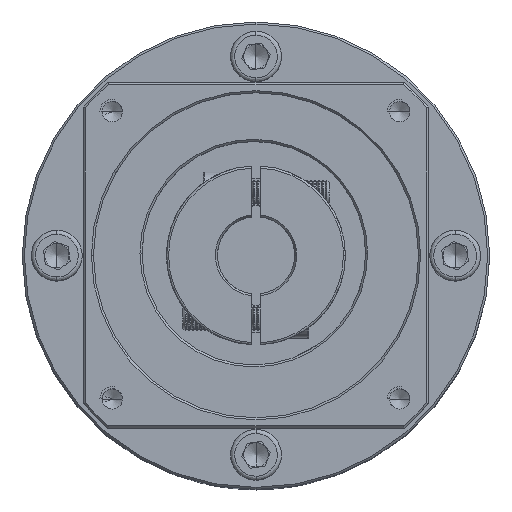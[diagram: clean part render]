
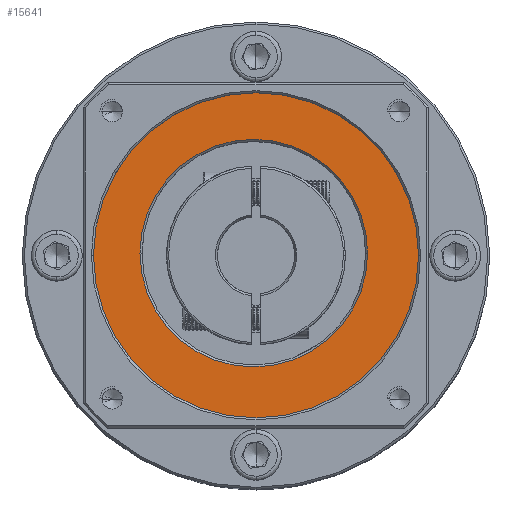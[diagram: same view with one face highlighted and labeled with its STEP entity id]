
A CAD part, top view. The second image highlights one B-rep face of the part: STEP entity #15641.
In plain terms, the highlighted planar face has unit normal (0, 0, 1).
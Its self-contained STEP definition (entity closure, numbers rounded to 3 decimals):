
#864 = CARTESIAN_POINT ( 'NONE',  ( 92.103, -33.587, 37.592 ) ) ;
#5647 = VERTEX_POINT ( 'NONE', #35612 ) ;
#9910 = ORIENTED_EDGE ( 'NONE', *, *, #20414, .T. ) ;
#11227 = DIRECTION ( 'NONE',  ( 0., 0., 1. ) ) ;
#11442 = DIRECTION ( 'NONE',  ( 1., 0., 0. ) ) ;
#15641 = ADVANCED_FACE ( 'NONE', ( #31003, #77204 ), #37721, .T. ) ;
#19317 = ORIENTED_EDGE ( 'NONE', *, *, #100514, .T. ) ;
#20223 = EDGE_CURVE ( 'NONE', #20271, #81738, #22299, .T. ) ;
#20271 = VERTEX_POINT ( 'NONE', #23648 ) ;
#20414 = EDGE_CURVE ( 'NONE', #88370, #5647, #20835, .T. ) ;
#20835 = CIRCLE ( 'NONE', #80206, 40. ) ;
#22299 = CIRCLE ( 'NONE', #72463, 28. ) ;
#22908 = CARTESIAN_POINT ( 'NONE',  ( 52.103, -33.587, 37.592 ) ) ;
#23648 = CARTESIAN_POINT ( 'NONE',  ( 119.561, -33.053, 37.592 ) ) ;
#24091 = DIRECTION ( 'NONE',  ( 0., 0., 1. ) ) ;
#24448 = CARTESIAN_POINT ( 'NONE',  ( 91.561, -33.053, 37.592 ) ) ;
#31003 = FACE_OUTER_BOUND ( 'NONE', #108528, .T. ) ;
#33337 = DIRECTION ( 'NONE',  ( 0., 0., -1. ) ) ;
#33894 = AXIS2_PLACEMENT_3D ( 'NONE', #77257, #48705, #11442 ) ;
#35612 = CARTESIAN_POINT ( 'NONE',  ( 132.103, -33.587, 37.592 ) ) ;
#37721 = PLANE ( 'NONE',  #113964 ) ;
#39809 = CARTESIAN_POINT ( 'NONE',  ( 63.561, -33.053, 37.592 ) ) ;
#48705 = DIRECTION ( 'NONE',  ( 0., 0., -1. ) ) ;
#51152 = DIRECTION ( 'NONE',  ( 1., 0., 0. ) ) ;
#54012 = CIRCLE ( 'NONE', #91111, 40. ) ;
#57339 = CARTESIAN_POINT ( 'NONE',  ( 92.103, -33.587, 37.592 ) ) ;
#57717 = DIRECTION ( 'NONE',  ( 1., 0., 0. ) ) ;
#59627 = DIRECTION ( 'NONE',  ( 1., 0., 0. ) ) ;
#72463 = AXIS2_PLACEMENT_3D ( 'NONE', #24448, #33337, #51152 ) ;
#73641 = EDGE_LOOP ( 'NONE', ( #111159, #109990 ) ) ;
#74945 = CIRCLE ( 'NONE', #33894, 28. ) ;
#77204 = FACE_BOUND ( 'NONE', #73641, .T. ) ;
#77257 = CARTESIAN_POINT ( 'NONE',  ( 91.561, -33.053, 37.592 ) ) ;
#79346 = CARTESIAN_POINT ( 'NONE',  ( 92.103, -33.587, 37.592 ) ) ;
#80206 = AXIS2_PLACEMENT_3D ( 'NONE', #57339, #11227, #57717 ) ;
#81738 = VERTEX_POINT ( 'NONE', #39809 ) ;
#88370 = VERTEX_POINT ( 'NONE', #22908 ) ;
#91111 = AXIS2_PLACEMENT_3D ( 'NONE', #79346, #24091, #59627 ) ;
#100514 = EDGE_CURVE ( 'NONE', #5647, #88370, #54012, .T. ) ;
#102201 = DIRECTION ( 'NONE',  ( 0., 0., 1. ) ) ;
#108528 = EDGE_LOOP ( 'NONE', ( #19317, #9910 ) ) ;
#109990 = ORIENTED_EDGE ( 'NONE', *, *, #110979, .T. ) ;
#110979 = EDGE_CURVE ( 'NONE', #81738, #20271, #74945, .T. ) ;
#111159 = ORIENTED_EDGE ( 'NONE', *, *, #20223, .T. ) ;
#111512 = DIRECTION ( 'NONE',  ( 1., 0., 0. ) ) ;
#113964 = AXIS2_PLACEMENT_3D ( 'NONE', #864, #102201, #111512 ) ;
